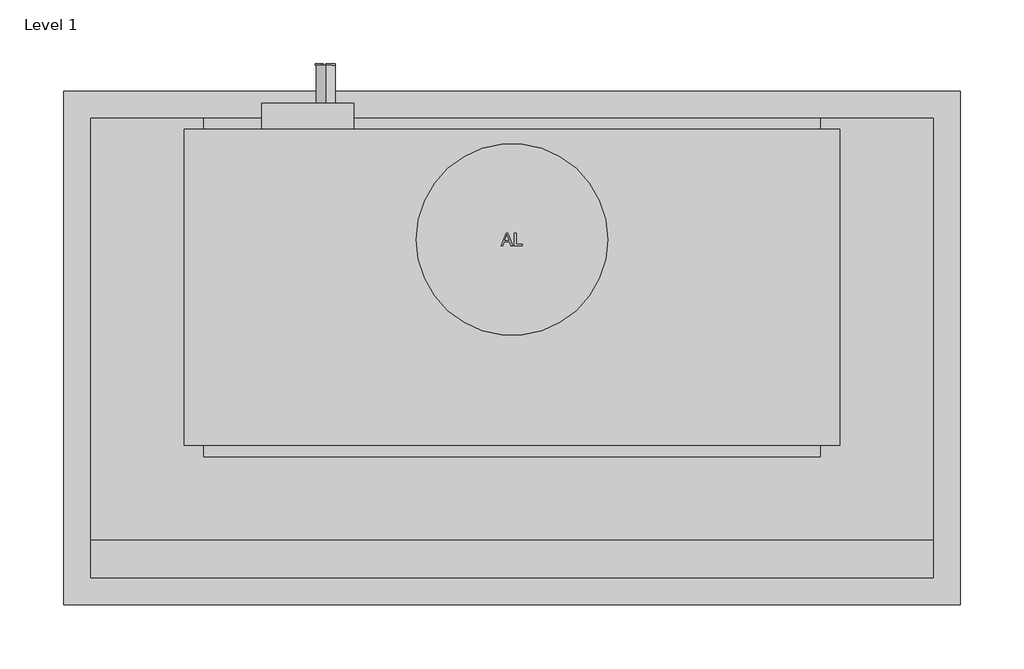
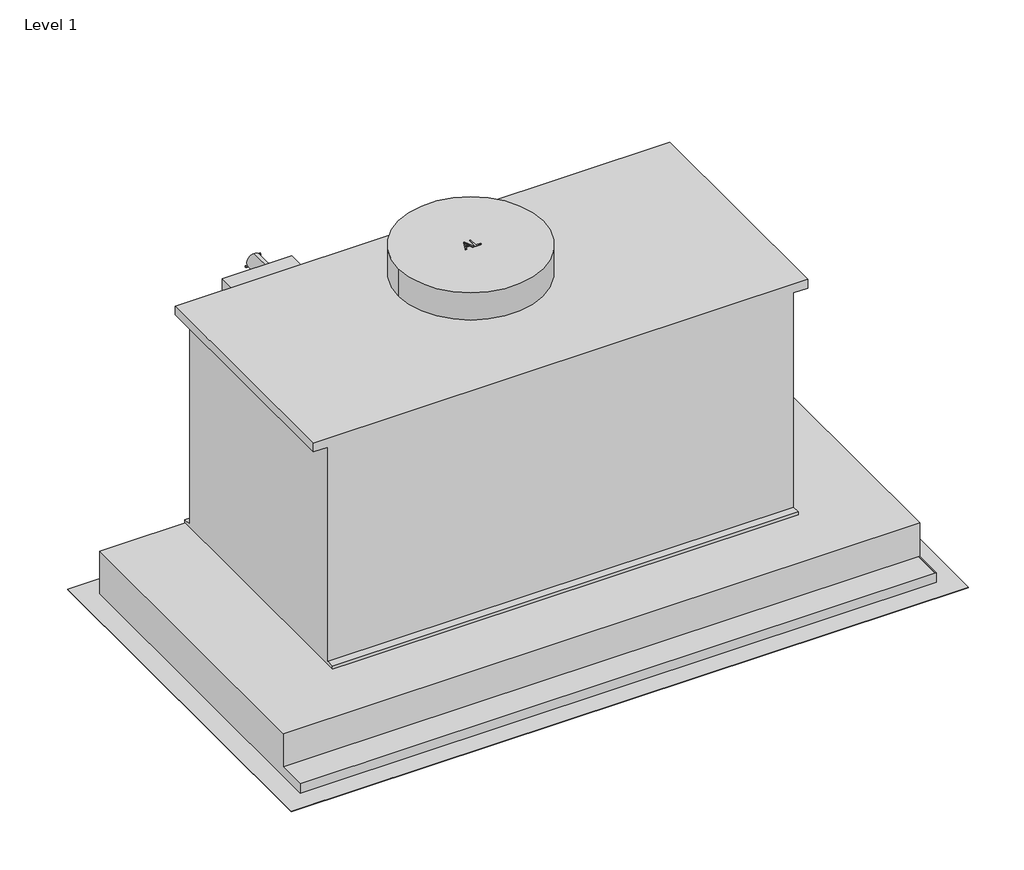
# One storey: 1 proxy.
"""IFC4 building model written with IfcOpenShell, lengths in millimetres."""

from ifc_helpers import new_model, si_unit, origin, place, context, project, spatial, transform, mapped, element, save
from components import specialty_equipment_0e7397b8

model = new_model("IFC4")

# Units and contexts
model_context = context("Model", 3, world=origin())
ifc_project = project(units=[si_unit("LENGTHUNIT", "METRE", prefix="MILLI")], contexts=[model_context])

# Site, building, storey
site = spatial("IfcSite", under=ifc_project)
building = spatial("IfcBuilding", under=site)
storey = spatial("IfcBuildingStorey", under=building, Name="Level 1", Elevation=0.0)

# Proxy
placement = place(None, origin())
specialty_equipment_shape = specialty_equipment_0e7397b8(model_context)
element("IfcBuildingElementProxy", 1, Name="10863210_RU_DA2578_EDST : 28257855_RU_10863210_DA2578_EDST", ObjectType="10863210_RU_DA2578_EDST : 28257855_RU_10863210_DA2578_EDST", at=placement, inside=storey, context=model_context, shape_type="MappedRepresentation", body=[
    mapped(specialty_equipment_shape, transform((0.0, 0.0, 0.0), x_axis=(1.0, 0.0, 0.0), y_axis=(0.0, 1.0, 0.0), z_axis=(0.0, 0.0, 1.0))),
])

save(model, "model.ifc")
